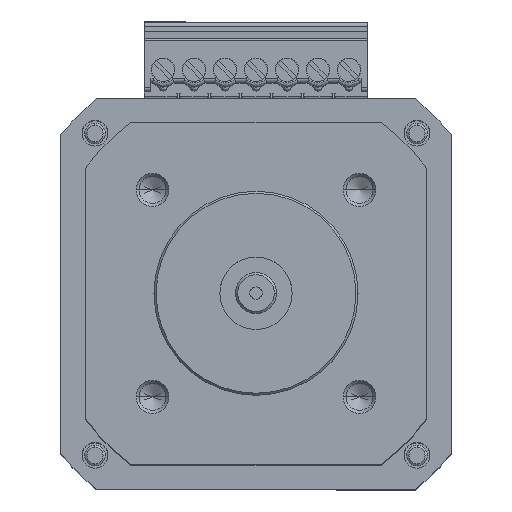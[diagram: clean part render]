
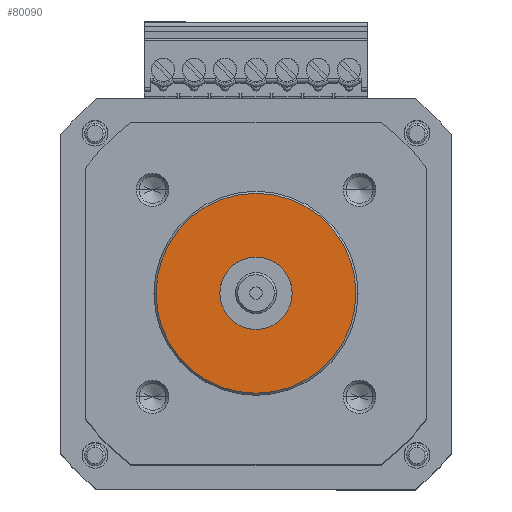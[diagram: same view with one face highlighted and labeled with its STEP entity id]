
A CAD part, top view. The second image highlights one B-rep face of the part: STEP entity #80090.
In plain terms, the highlighted planar face has unit normal (0, 0, 1).
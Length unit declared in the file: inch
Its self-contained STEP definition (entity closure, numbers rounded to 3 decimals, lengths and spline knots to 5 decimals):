
#10341 = AXIS2_PLACEMENT_3D ( 'NONE', #10389, #10434, #10432 ) ;
#10389 = CARTESIAN_POINT ( 'NONE',  ( 0., 0., 0.12 ) ) ;
#10432 = DIRECTION ( 'NONE',  ( 1., 0., 0. ) ) ;
#10434 = DIRECTION ( 'NONE',  ( 0., 0., 1. ) ) ;
#10448 = CIRCLE ( 'NONE', #10341, 0.484 ) ;
#10687 = CIRCLE ( 'NONE', #10715, 0.175 ) ;
#10711 = DIRECTION ( 'NONE',  ( 1., 0., 0. ) ) ;
#10712 = DIRECTION ( 'NONE',  ( 0., 0., 1. ) ) ;
#10715 = AXIS2_PLACEMENT_3D ( 'NONE', #10723, #10712, #10711 ) ;
#10723 = CARTESIAN_POINT ( 'NONE',  ( 0., 0., 0.12 ) ) ;
#10817 = CARTESIAN_POINT ( 'NONE',  ( -0.484, 0., 0.12 ) ) ;
#10946 = CARTESIAN_POINT ( 'NONE',  ( 0.484, 0., 0.12 ) ) ;
#11179 = CARTESIAN_POINT ( 'NONE',  ( -0.175, 0., 0.12 ) ) ;
#11198 = CARTESIAN_POINT ( 'NONE',  ( 0.175, 0., 0.12 ) ) ;
#12724 = DIRECTION ( 'NONE',  ( 1., 0., 0. ) ) ;
#12725 = DIRECTION ( 'NONE',  ( 0., 0., 1. ) ) ;
#12727 = CARTESIAN_POINT ( 'NONE',  ( 0., 0., 0.12 ) ) ;
#12728 = AXIS2_PLACEMENT_3D ( 'NONE', #12727, #12725, #12724 ) ;
#12729 = CIRCLE ( 'NONE', #12728, 0.484 ) ;
#12903 = AXIS2_PLACEMENT_3D ( 'NONE', #13061, #13060, #13059 ) ;
#13003 = FACE_BOUND ( 'NONE', #80089, .T. ) ;
#13008 = PLANE ( 'NONE',  #12903 ) ;
#13017 = FACE_OUTER_BOUND ( 'NONE', #80113, .T. ) ;
#13059 = DIRECTION ( 'NONE',  ( 1., 0., 0. ) ) ;
#13060 = DIRECTION ( 'NONE',  ( 0., 0., 1. ) ) ;
#13061 = CARTESIAN_POINT ( 'NONE',  ( 0., 0., 0.12 ) ) ;
#13082 = CIRCLE ( 'NONE', #13227, 0.175 ) ;
#13225 = DIRECTION ( 'NONE',  ( 1., 0., 0. ) ) ;
#13226 = DIRECTION ( 'NONE',  ( 0., 0., 1. ) ) ;
#13227 = AXIS2_PLACEMENT_3D ( 'NONE', #13235, #13226, #13225 ) ;
#13235 = CARTESIAN_POINT ( 'NONE',  ( 0., 0., 0.12 ) ) ;
#79599 = EDGE_CURVE ( 'NONE', #79671, #79664, #10448, .T. ) ;
#79637 = EDGE_CURVE ( 'NONE', #79705, #79706, #10687, .T. ) ;
#79664 = VERTEX_POINT ( 'NONE', #10817 ) ;
#79671 = VERTEX_POINT ( 'NONE', #10946 ) ;
#79705 = VERTEX_POINT ( 'NONE', #11179 ) ;
#79706 = VERTEX_POINT ( 'NONE', #11198 ) ;
#80049 = EDGE_CURVE ( 'NONE', #79664, #79671, #12729, .T. ) ;
#80089 = EDGE_LOOP ( 'NONE', ( #80103, #80096 ) ) ;
#80090 = ADVANCED_FACE ( 'NONE', ( #13017, #13003 ), #13008, .T. ) ;
#80091 = ORIENTED_EDGE ( 'NONE', *, *, #80049, .T. ) ;
#80096 = ORIENTED_EDGE ( 'NONE', *, *, #80110, .F. ) ;
#80103 = ORIENTED_EDGE ( 'NONE', *, *, #79637, .F. ) ;
#80108 = ORIENTED_EDGE ( 'NONE', *, *, #79599, .T. ) ;
#80110 = EDGE_CURVE ( 'NONE', #79706, #79705, #13082, .T. ) ;
#80113 = EDGE_LOOP ( 'NONE', ( #80091, #80108 ) ) ;
